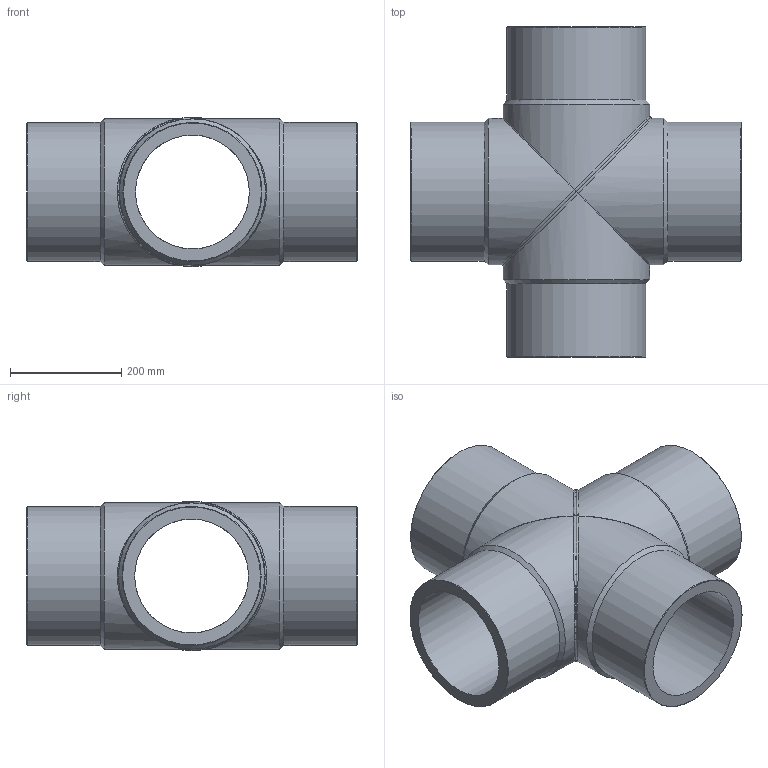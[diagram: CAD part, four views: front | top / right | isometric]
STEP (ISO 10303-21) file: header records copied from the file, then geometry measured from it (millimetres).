
FILE_DESCRIPTION(/* description */ ('Unknown'),/* implementation_level */ '2;1');
FILE_NAME(/* name */ 'CRP250C',/* time_stamp */ '2022-07-07T17:08:19+02:00',/* author */ ('Unknown'),/* organization */ ('Unknown'),/* preprocessor_version */ 'ST-DEVELOPER v18.102',/* originating_system */ 'Solid Edge',/* authorisation */ 'Unknown');
FILE_SCHEMA (('AUTOMOTIVE_DESIGN {1 0 10303 214 3 1 1}'));
Length unit declared in the file: millimetre
Products named in the file (3): CRP250C; CRP250C_mir
Assembly tree (2 placements, depth 2):
  CRP250C
    CRP250C
    CRP250C_mir
Bounding box: 594.5 x 594.5 x 267.99 mm (x, y, z)
Volume: 16239706.9 mm3; surface area: 1414052.9 mm2
Topology: 2 solids, 2 shells, 32 faces, 86 edges, 56 vertices
Faces by surface type: cylinder 12, cone 8, plane 6, bspline 6
Full cylindrical faces by diameter (mm): 204.6 x4, 250 x4, 263 x4
Entity records: 3593 total; most frequent: CARTESIAN_POINT 2885, DIRECTION 126, ORIENTED_EDGE 112, AXIS2_PLACEMENT_3D 63, EDGE_LOOP 58, FACE_BOUND 58, EDGE_CURVE 56, VERTEX_POINT 46
